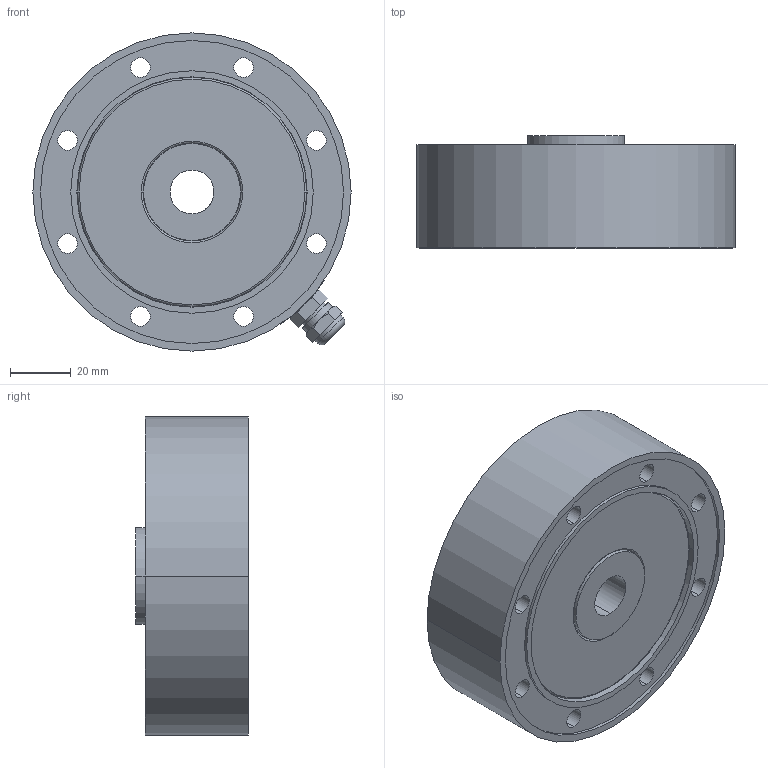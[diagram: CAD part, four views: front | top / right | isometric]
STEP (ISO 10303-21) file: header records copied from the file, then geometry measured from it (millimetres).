
FILE_DESCRIPTION (( 'STEP AP203' ), '1' );
FILE_NAME ('TJH-4B 5kN~70kN蚾饜极.STEP', '2022-05-13T04:30:12', ( 'Windows 蚚誧' ), ( 'Organization' ), 'SwSTEP 2.0', 'SolidWorks 2019', '' );
FILE_SCHEMA (( 'CONFIG_CONTROL_DESIGN' ));
Length unit declared in the file: millimetre
Products named in the file (5): TJH-4B   500KG-7T; TJH-4B 5kN~70kN蚾饜极; TJH-4（1-7t)接线柱; 4545454; M10Сƽͷ
Assembly tree (5 placements, depth 2):
  TJH-4B 5kN~70kN蚾饜极
    4545454
    TJH-4（1-7t)接线柱
    TJH-4B   500KG-7T  x2
    M10Сƽͷ
Bounding box: 105 x 37 x 105 mm (x, y, z)
Volume: 219383.2 mm3; surface area: 66132.7 mm2
Topology: 5 solids, 5 shells, 210 faces, 457 edges, 288 vertices
Faces by surface type: cylinder 112, plane 59, torus 26, cone 13
Entity records: 6165 total; most frequent: CARTESIAN_POINT 1166, DIRECTION 1045, ORIENTED_EDGE 834, AXIS2_PLACEMENT_3D 452, EDGE_CURVE 417, VERTEX_POINT 264, CIRCLE 254, EDGE_LOOP 253
